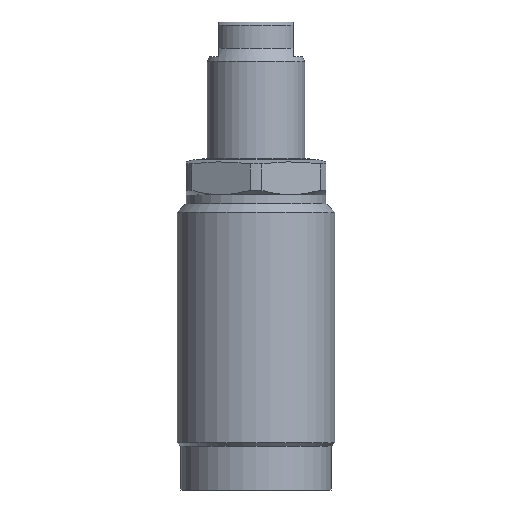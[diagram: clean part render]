
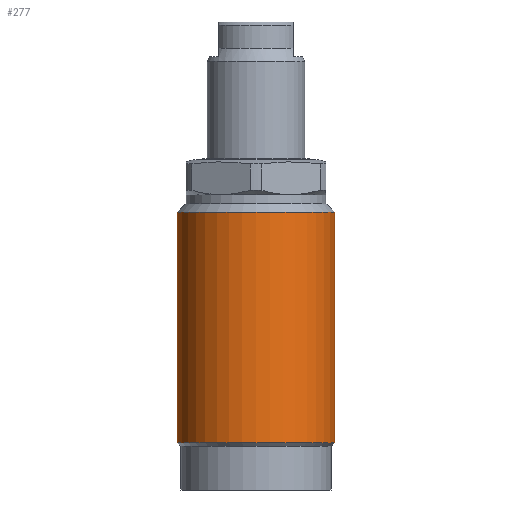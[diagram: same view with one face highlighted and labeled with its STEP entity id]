
A CAD part, front view. The second image highlights one B-rep face of the part: STEP entity #277.
In plain terms, the highlighted cylindrical face has radius 18 mm (diameter 36 mm), a partial arc.
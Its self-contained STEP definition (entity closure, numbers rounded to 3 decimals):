
#277 = ADVANCED_FACE ( 'NONE', ( #1920 ), #1923, .T. ) ;
#374 = EDGE_CURVE ( 'NONE', #2453, #2516, #1717, .T. ) ;
#375 = EDGE_CURVE ( 'NONE', #2464, #2473, #1722, .T. ) ;
#504 = CARTESIAN_POINT ( 'NONE',  ( 0., 0., -64.65 ) ) ;
#505 = DIRECTION ( 'NONE',  ( 0., 0., 1. ) ) ;
#506 = DIRECTION ( 'NONE',  ( 1., 0., 0. ) ) ;
#507 = CARTESIAN_POINT ( 'NONE',  ( 0., 0., -12. ) ) ;
#508 = DIRECTION ( 'NONE',  ( 0., 0., 1. ) ) ;
#509 = DIRECTION ( 'NONE',  ( 1., 0., 0. ) ) ;
#577 = CARTESIAN_POINT ( 'NONE',  ( -18., 0., -64.65 ) ) ;
#586 = CARTESIAN_POINT ( 'NONE',  ( 18., 0., -64.65 ) ) ;
#594 = CARTESIAN_POINT ( 'NONE',  ( 18., 0., -12. ) ) ;
#637 = CARTESIAN_POINT ( 'NONE',  ( -18., 0., -12. ) ) ;
#768 = VECTOR ( 'NONE', #1721, 1000. ) ;
#771 = VECTOR ( 'NONE', #1725, 1000. ) ;
#897 = CIRCLE ( 'NONE', #900, 18. ) ;
#899 = CIRCLE ( 'NONE', #902, 18. ) ;
#900 = AXIS2_PLACEMENT_3D ( 'NONE', #504, #505, #506 ) ;
#902 = AXIS2_PLACEMENT_3D ( 'NONE', #507, #508, #509 ) ;
#1715 = CARTESIAN_POINT ( 'NONE',  ( -18., 0., 4.451 ) ) ;
#1717 = LINE ( 'NONE', #1715, #768 ) ;
#1721 = DIRECTION ( 'NONE',  ( 0., 0., 1. ) ) ;
#1722 = LINE ( 'NONE', #1724, #771 ) ;
#1724 = CARTESIAN_POINT ( 'NONE',  ( 18., 0., 4.451 ) ) ;
#1725 = DIRECTION ( 'NONE',  ( 0., 0., 1. ) ) ;
#1918 = DIRECTION ( 'NONE',  ( 0., 0., 1. ) ) ;
#1920 = FACE_OUTER_BOUND ( 'NONE', #2178, .T. ) ;
#1921 = CARTESIAN_POINT ( 'NONE',  ( 0., 0., 4.451 ) ) ;
#1923 = CYLINDRICAL_SURFACE ( 'NONE', #2835, 18. ) ;
#1924 = DIRECTION ( 'NONE',  ( 1., 0., 0. ) ) ;
#2178 = EDGE_LOOP ( 'NONE', ( #2592, #2591, #2590, #2589 ) ) ;
#2423 = EDGE_CURVE ( 'NONE', #2453, #2464, #897, .T. ) ;
#2424 = EDGE_CURVE ( 'NONE', #2516, #2473, #899, .T. ) ;
#2453 = VERTEX_POINT ( 'NONE', #577 ) ;
#2464 = VERTEX_POINT ( 'NONE', #586 ) ;
#2473 = VERTEX_POINT ( 'NONE', #594 ) ;
#2516 = VERTEX_POINT ( 'NONE', #637 ) ;
#2589 = ORIENTED_EDGE ( 'NONE', *, *, #2424, .F. ) ;
#2590 = ORIENTED_EDGE ( 'NONE', *, *, #375, .T. ) ;
#2591 = ORIENTED_EDGE ( 'NONE', *, *, #2423, .T. ) ;
#2592 = ORIENTED_EDGE ( 'NONE', *, *, #374, .F. ) ;
#2835 = AXIS2_PLACEMENT_3D ( 'NONE', #1921, #1918, #1924 ) ;
